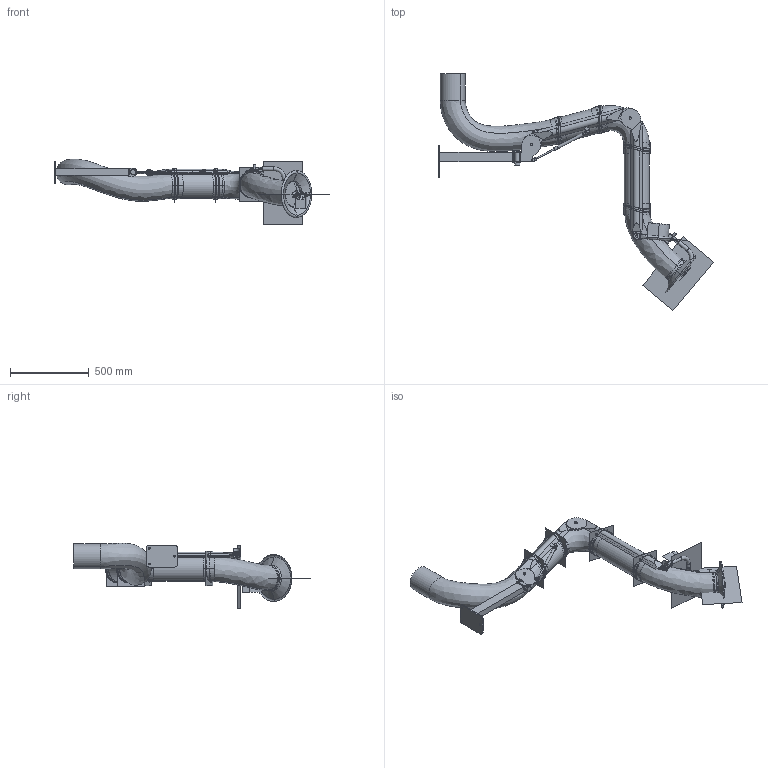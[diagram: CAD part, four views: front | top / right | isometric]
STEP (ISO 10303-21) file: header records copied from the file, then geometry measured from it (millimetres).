
FILE_DESCRIPTION((''),'2;1');
FILE_NAME('131004','2020-01-16T09:02:30',('Tomas Bellgran'),(''),'CREO PARAMETRIC BY PTC INC, 2018260','CREO PARAMETRIC BY PTC INC, 2018260','');
FILE_SCHEMA(('AUTOMOTIVE_DESIGN { 1 0 10303 214 1 1 1 1 }'));
Products named in the file (34): 131088_LIGHT; 131043; 131046_LIGHT; 131046; 144355; 131150; 139382; 131151; 131172; 144356; 131125_LIGHT; 131125; 131111_LIGHT; 131111; 130315; ROD_STAB_8-160-REF; 131095; 130320_AF10; 131145; 131131_AF0; 131134_AF0; 131139; 107534; 107524; 139631; 139616; 139615; 139614; 139628; SKRUVSATS_LITEN; SKRUVSATS_BIG; SKRUVSATS_LITEN-2; SKRUVSATS_BIGGEST; 131004
Assembly tree (51 placements, depth 3):
  131004
    131043
      131088_LIGHT
    131046
      131046_LIGHT
    144355  x4
    131150
    131172
      139382
      131151
    144356  x2
    131125
      131125_LIGHT
    131111
      131111_LIGHT
    130320_AF10
      130315
      ROD_STAB_8-160-REF
      131095  x2
    131145  x2
    131139  x4
      131131_AF0
      131134_AF0
    107534
    107524  x4
    139628
      139631  x3
      139616
      139615
      139614
    SKRUVSATS_LITEN  x2
    SKRUVSATS_BIG  x2
    SKRUVSATS_LITEN-2  x2
    SKRUVSATS_BIGGEST  x2
Bounding box: 1746.18 x 1502.94 x 416.52 mm (x, y, z)
Volume: 53565129.3 mm3; surface area: 2983194 mm2
Topology: 46 solids, 85 shells, 1122 faces, 2623 edges, 1631 vertices
Faces by surface type: cylinder 380, plane 325, bspline 276, torus 94, cone 34, extrusion 13
Entity records: 73082 total; most frequent: CARTESIAN_POINT 33848, POLYLINE 5532, DIRECTION 3662, ORIENTED_EDGE 2956, PRESENTATION_STYLE_ASSIGNMENT 2183, STYLED_ITEM 2140, CURVE_STYLE 1599, EDGE_CURVE 1573
